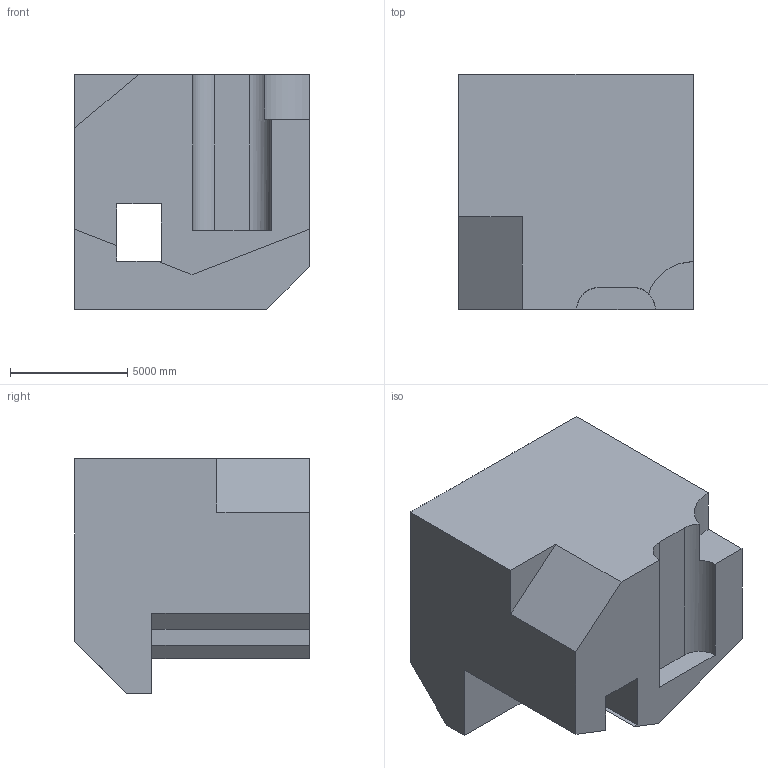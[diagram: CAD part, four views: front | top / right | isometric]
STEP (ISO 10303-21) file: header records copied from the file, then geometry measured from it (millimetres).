
FILE_DESCRIPTION (( 'STEP AP203' ), '1' );
FILE_NAME ('634.STEP', '2022-07-29T12:12:59', ( 'user' ), ( '' ), 'SwSTEP 2.0', 'SolidWorks 2021', '' );
FILE_SCHEMA (( 'CONFIG_CONTROL_DESIGN' ));
Length unit declared in the file: centimetre
Products named in the file (1): 634
Bounding box: 10000 x 10000 x 10000 mm (x, y, z)
Volume: 730069781549.3 mm3; surface area: 583119287.2 mm2
Topology: 1 solids, 1 shells, 24 faces, 72 edges, 48 vertices
Faces by surface type: plane 21, cylinder 3
Entity records: 884 total; most frequent: CARTESIAN_POINT 145, ORIENTED_EDGE 144, DIRECTION 129, EDGE_CURVE 72, VECTOR 65, LINE 65, VERTEX_POINT 48, AXIS2_PLACEMENT_3D 32
